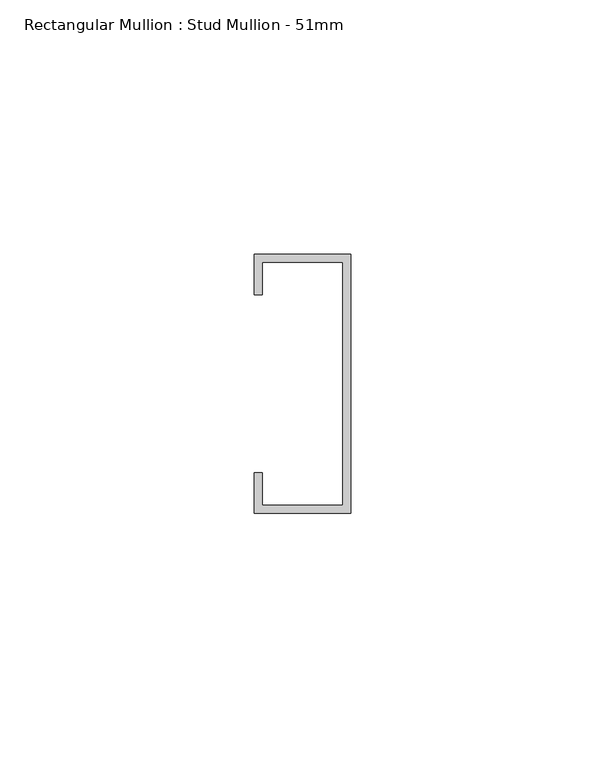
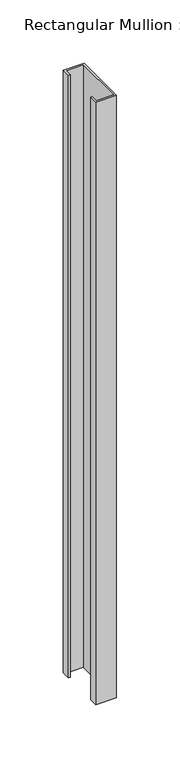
"""IFC4 building model written with IfcOpenShell, lengths in millimetres: member geometry, Rectangular Mullion : Stud Mullion - 51mm."""

from ifc_helpers import new_model, si_unit, frame, origin, place, context, project, spatial, polyline, outline, extrude, source, transform, mapped, element, save


def rectangular_mullion_stud_mullion_51mm_2ef0a27f(model_context):
    return source(origin(), model_context, "Body", "SweptSolid", [
        extrude(outline(polyline([(-19.0, 17.5), (-19.0, 25.5), (0.0, 25.5), (0.0, -25.5), (-19.0, -25.5), (-19.0, -17.5), (-17.4, -17.5), (-17.4, -23.9), (-1.6, -23.9), (-1.6, 23.9), (-17.4, 23.9), (-17.4, 17.5), (-19.0, 17.5)])), frame((0.0, 0.0, -581.0000003), z_axis=(0.0, 0.0, 1.0), x_axis=(1.0, 0.0, 0.0)), (0.0, 0.0, 1.0), 581.0000003),
    ])


if __name__ == "__main__":
    model = new_model("IFC4")
    model_context = context("Model", 3, world=origin())
    ifc_project = project(units=[si_unit("LENGTHUNIT", "METRE", prefix="MILLI")], contexts=[model_context])
    site = spatial("IfcSite", under=ifc_project)
    building = spatial("IfcBuilding", under=site)
    placement = place(None, origin())
    rectangular_mullion_stud_mullion_51mm_shape = rectangular_mullion_stud_mullion_51mm_2ef0a27f(model_context)
    element("IfcMember", 1, ObjectType="Rectangular Mullion : Stud Mullion - 51mm", at=placement, inside=building, context=model_context, shape_type="MappedRepresentation", body=[
        mapped(rectangular_mullion_stud_mullion_51mm_shape, transform((0.0, 0.0, 0.0), x_axis=(1.0, 0.0, 0.0), y_axis=(0.0, 1.0, 0.0), z_axis=(0.0, 0.0, 1.0))),
    ])
    save(model, "model.ifc")
